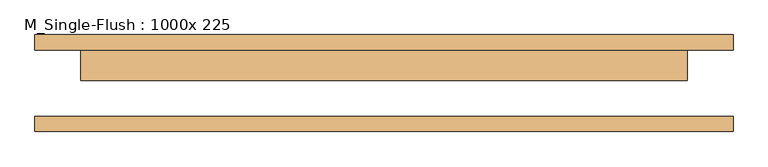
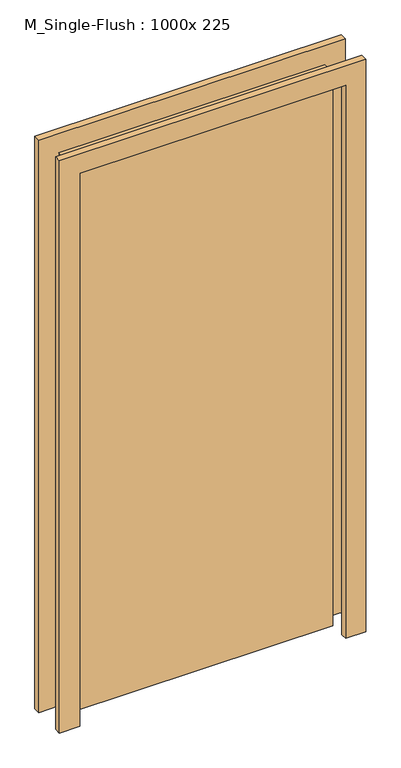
"""IFC4 building model written with IfcOpenShell, lengths in millimetres: door geometry, M_Single-Flush : 1000x 225."""

from ifc_helpers import new_model, si_unit, frame, origin, origin_with_axes, place, context, project, spatial, polyline, outline, extrude, source, transform, mapped, element, save


def m_single_flush_1000x_225_7491b799(model_context):
    return source(origin(), model_context, "Body", "SweptSolid", [
        extrude(outline(polyline([(2276.0, -576.0), (0.0, -576.0), (0.0, -500.0), (2200.0, -500.0), (2200.0, 500.0), (0.0, 500.0), (0.0, 576.0), (2276.0, 576.0), (2276.0, -576.0)])), frame((0.0, 55.0, 0.0), z_axis=(0.0, 1.0, 0.0), x_axis=(0.0, 0.0, 1.0)), (0.0, 0.0, 1.0), 25.0),
        extrude(outline(polyline([(2276.0, 576.0), (2276.0, -576.0), (0.0, -576.0), (0.0, -500.0), (2200.0, -500.0), (2200.0, 500.0), (0.0, 500.0), (0.0, 576.0), (2276.0, 576.0)])), frame((0.0, -80.0, 0.0), z_axis=(0.0, 1.0, 0.0), x_axis=(0.0, 0.0, 1.0)), (0.0, 0.0, 1.0), 25.0),
        extrude(outline(polyline([(500.0, 4.0), (-500.0, 4.0), (-500.0, 55.0), (500.0, 55.0), (500.0, 4.0)])), origin_with_axes(), (0.0, 0.0, 1.0), 2200.0),
    ])


if __name__ == "__main__":
    model = new_model("IFC4")
    model_context = context("Model", 3, world=origin())
    ifc_project = project(units=[si_unit("LENGTHUNIT", "METRE", prefix="MILLI")], contexts=[model_context])
    site = spatial("IfcSite", under=ifc_project)
    building = spatial("IfcBuilding", under=site)
    placement = place(None, origin())
    m_single_flush_1000x_225_shape = m_single_flush_1000x_225_7491b799(model_context)
    element("IfcDoor", 1, ObjectType="M_Single-Flush : 1000x 225", at=placement, inside=building, context=model_context, shape_type="MappedRepresentation", body=[
        mapped(m_single_flush_1000x_225_shape, transform((0.0, 0.0, 0.0), x_axis=(1.0, 0.0, 0.0), y_axis=(0.0, 1.0, 0.0), z_axis=(0.0, 0.0, 1.0))),
    ])
    save(model, "model.ifc")
